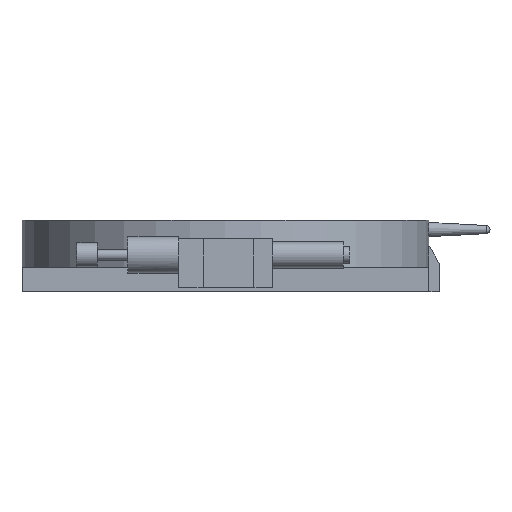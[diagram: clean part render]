
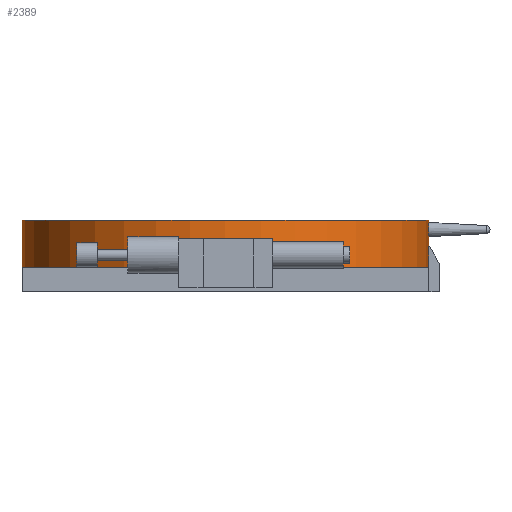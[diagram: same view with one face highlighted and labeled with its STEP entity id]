
A CAD part, front view. The second image highlights one B-rep face of the part: STEP entity #2389.
In plain terms, the highlighted cylindrical face has radius 100 mm (diameter 200 mm), a partial arc.
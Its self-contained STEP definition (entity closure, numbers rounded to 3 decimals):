
#33 = CARTESIAN_POINT ( 'NONE',  ( 100., 0., 12. ) ) ;
#47 = DIRECTION ( 'NONE',  ( 0., 0., -1. ) ) ;
#257 = DIRECTION ( 'NONE',  ( -1., 0., 0. ) ) ;
#279 = DIRECTION ( 'NONE',  ( 1., 0., 0. ) ) ;
#358 = AXIS2_PLACEMENT_3D ( 'NONE', #1001, #47, #1741 ) ;
#453 = CYLINDRICAL_SURFACE ( 'NONE', #2394, 100. ) ;
#685 = ORIENTED_EDGE ( 'NONE', *, *, #1154, .T. ) ;
#703 = ORIENTED_EDGE ( 'NONE', *, *, #2972, .F. ) ;
#768 = CARTESIAN_POINT ( 'NONE',  ( 0., 0., 35. ) ) ;
#797 = ORIENTED_EDGE ( 'NONE', *, *, #2616, .F. ) ;
#827 = DIRECTION ( 'NONE',  ( 0., 0., -1. ) ) ;
#893 = LINE ( 'NONE', #1578, #2869 ) ;
#968 = CARTESIAN_POINT ( 'NONE',  ( 100., 0., 35. ) ) ;
#1001 = CARTESIAN_POINT ( 'NONE',  ( 0., 0., 12. ) ) ;
#1003 = CARTESIAN_POINT ( 'NONE',  ( -100., 0., 12. ) ) ;
#1019 = CIRCLE ( 'NONE', #358, 100. ) ;
#1071 = VERTEX_POINT ( 'NONE', #33 ) ;
#1154 = EDGE_CURVE ( 'NONE', #2257, #2034, #893, .T. ) ;
#1392 = LINE ( 'NONE', #968, #2773 ) ;
#1462 = CARTESIAN_POINT ( 'NONE',  ( 0., 0., 35. ) ) ;
#1477 = VERTEX_POINT ( 'NONE', #2889 ) ;
#1578 = CARTESIAN_POINT ( 'NONE',  ( -100., 0., 35. ) ) ;
#1605 = DIRECTION ( 'NONE',  ( 0., 0., -1. ) ) ;
#1642 = ORIENTED_EDGE ( 'NONE', *, *, #2046, .F. ) ;
#1741 = DIRECTION ( 'NONE',  ( 1., 0., 0. ) ) ;
#1752 = AXIS2_PLACEMENT_3D ( 'NONE', #2545, #827, #2761 ) ;
#1779 = EDGE_LOOP ( 'NONE', ( #797, #2299, #685, #1642, #703 ) ) ;
#1858 = AXIS2_PLACEMENT_3D ( 'NONE', #1462, #1975, #279 ) ;
#1941 = EDGE_CURVE ( 'NONE', #2257, #1477, #2635, .T. ) ;
#1975 = DIRECTION ( 'NONE',  ( 0., 0., 1. ) ) ;
#2034 = VERTEX_POINT ( 'NONE', #1003 ) ;
#2046 = EDGE_CURVE ( 'NONE', #2476, #2034, #2113, .T. ) ;
#2113 = CIRCLE ( 'NONE', #1752, 100. ) ;
#2257 = VERTEX_POINT ( 'NONE', #2595 ) ;
#2299 = ORIENTED_EDGE ( 'NONE', *, *, #1941, .F. ) ;
#2389 = ADVANCED_FACE ( 'NONE', ( #2852 ), #453, .T. ) ;
#2394 = AXIS2_PLACEMENT_3D ( 'NONE', #768, #2933, #257 ) ;
#2476 = VERTEX_POINT ( 'NONE', #3105 ) ;
#2545 = CARTESIAN_POINT ( 'NONE',  ( 0., 0., 12. ) ) ;
#2595 = CARTESIAN_POINT ( 'NONE',  ( -100., 0., 35. ) ) ;
#2616 = EDGE_CURVE ( 'NONE', #1477, #1071, #1392, .T. ) ;
#2635 = CIRCLE ( 'NONE', #1858, 100. ) ;
#2761 = DIRECTION ( 'NONE',  ( 1., 0., 0. ) ) ;
#2773 = VECTOR ( 'NONE', #2908, 1000. ) ;
#2852 = FACE_OUTER_BOUND ( 'NONE', #1779, .T. ) ;
#2869 = VECTOR ( 'NONE', #1605, 1000. ) ;
#2889 = CARTESIAN_POINT ( 'NONE',  ( 100., 0., 35. ) ) ;
#2908 = DIRECTION ( 'NONE',  ( 0., 0., -1. ) ) ;
#2933 = DIRECTION ( 'NONE',  ( 0., 0., -1. ) ) ;
#2972 = EDGE_CURVE ( 'NONE', #1071, #2476, #1019, .T. ) ;
#3105 = CARTESIAN_POINT ( 'NONE',  ( 0., -100., 12. ) ) ;
